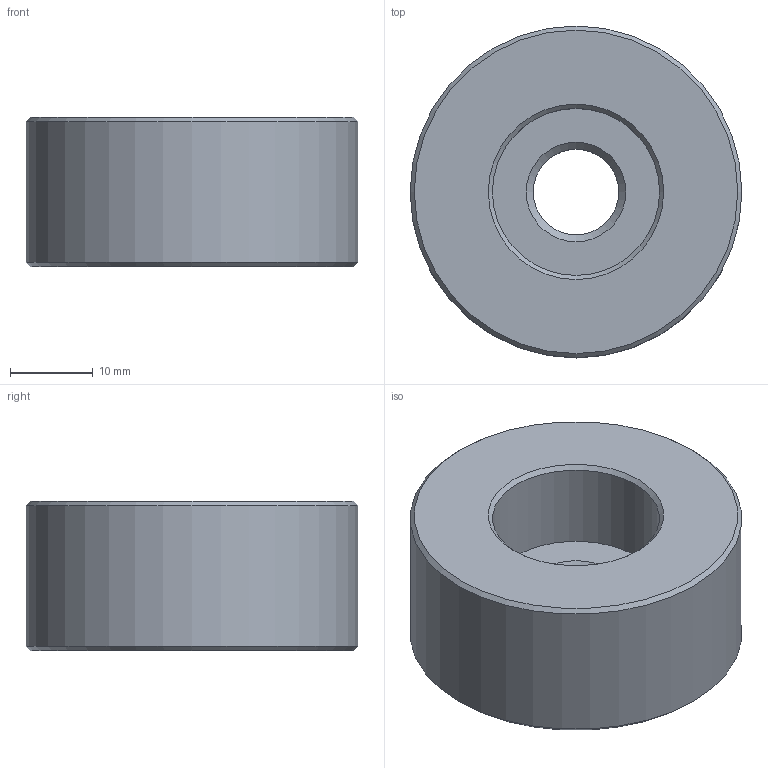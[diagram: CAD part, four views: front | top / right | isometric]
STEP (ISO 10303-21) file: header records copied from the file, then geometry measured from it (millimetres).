
FILE_DESCRIPTION(/* description */ (''),/* implementation_level */ '2;1');
FILE_NAME(/* name */ 'TRAYLOADER.75.stp',/* time_stamp */ '2025-05-12T16:08:05+02:00',/* author */ (''),/* organization */ (''),/* preprocessor_version */ 'ST-DEVELOPER v19.4',/* originating_system */ 'SIEMENS PLM Software NX2306.5001',/* authorisation */ '');
FILE_SCHEMA (('AP203_CONFIGURATION_CONTROLLED_3D_DESIGN_OF_MECHANICAL_PARTS_AND_ASSEMBLIES_MIM_LF { 1 0 10303 403 2 1 2}'));
Length unit declared in the file: millimetre
Products named in the file (1): TRAYLOADER.75_objects
Bounding box: 40 x 40 x 18 mm (x, y, z)
Volume: 18464.6 mm3; surface area: 5408.6 mm2
Topology: 1 solids, 1 shells, 11 faces, 22 edges, 14 vertices
Faces by surface type: cone 5, plane 3, cylinder 3
Full cylindrical faces by diameter (mm): 10.3 x1, 20.15 x1, 40 x1
Entity records: 314 total; most frequent: DIRECTION 46, CARTESIAN_POINT 34, AXIS2_PLACEMENT_3D 23, FACE_BOUND 22, EDGE_LOOP 22, ORIENTED_EDGE 22, ADVANCED_FACE 11, VERTEX_POINT 11
